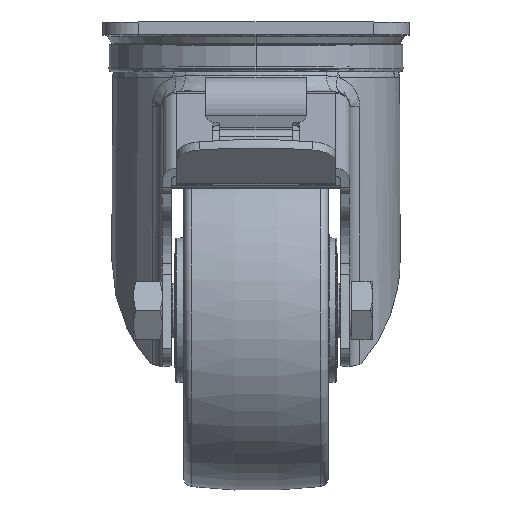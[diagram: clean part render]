
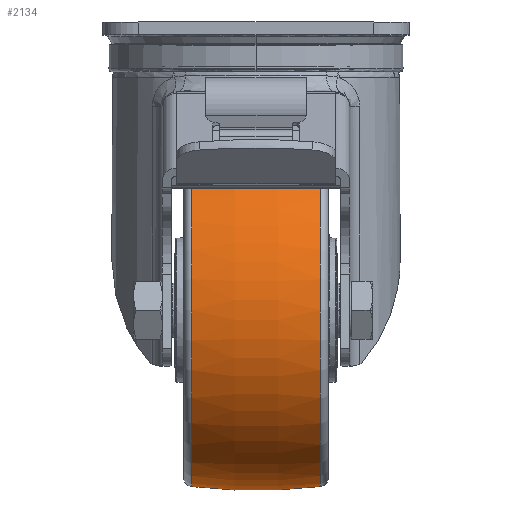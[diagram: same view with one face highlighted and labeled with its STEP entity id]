
A CAD part, top view. The second image highlights one B-rep face of the part: STEP entity #2134.
In plain terms, the highlighted toroidal (fillet/blend) face has major radius 100 mm and minor radius 150 mm.
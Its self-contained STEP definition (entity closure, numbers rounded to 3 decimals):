
#2134 = ADVANCED_FACE ( 'NONE', ( #39194 ), #39198, .T. ) ;
#4659 = CARTESIAN_POINT ( 'NONE',  ( -17.797, 0., 0. ) ) ;
#4660 = DIRECTION ( 'NONE',  ( -1., 0., 0. ) ) ;
#4661 = DIRECTION ( 'NONE',  ( 0., 0., 1. ) ) ;
#4677 = CARTESIAN_POINT ( 'NONE',  ( 17.853, 0., 0. ) ) ;
#4678 = DIRECTION ( 'NONE',  ( -1., 0., 0. ) ) ;
#4679 = DIRECTION ( 'NONE',  ( 0., 0., 1. ) ) ;
#4684 = CARTESIAN_POINT ( 'NONE',  ( 0., 0., 100. ) ) ;
#4685 = DIRECTION ( 'NONE',  ( 0., 1., 0. ) ) ;
#4686 = DIRECTION ( 'NONE',  ( 0., 0., 1. ) ) ;
#4687 = CARTESIAN_POINT ( 'NONE',  ( 0., 0., -100. ) ) ;
#4688 = DIRECTION ( 'NONE',  ( 0., -1., 0. ) ) ;
#4689 = DIRECTION ( 'NONE',  ( 0., 0., -1. ) ) ;
#6464 = CIRCLE ( 'NONE', #41798, 48.941 ) ;
#6474 = CIRCLE ( 'NONE', #41804, 48.934 ) ;
#6475 = CIRCLE ( 'NONE', #41806, 150. ) ;
#6477 = CIRCLE ( 'NONE', #41807, 150. ) ;
#24667 = EDGE_CURVE ( 'NONE', #63660, #63661, #6464, .T. ) ;
#24679 = EDGE_CURVE ( 'NONE', #63669, #63670, #6474, .T. ) ;
#24683 = EDGE_CURVE ( 'NONE', #63670, #63661, #6475, .T. ) ;
#24685 = EDGE_CURVE ( 'NONE', #63669, #63660, #6477, .T. ) ;
#37806 = CARTESIAN_POINT ( 'NONE',  ( 0., 0., 0. ) ) ;
#37815 = DIRECTION ( 'NONE',  ( -1., 0., 0. ) ) ;
#37816 = DIRECTION ( 'NONE',  ( 0., 0., 1. ) ) ;
#39194 = FACE_OUTER_BOUND ( 'NONE', #62209, .T. ) ;
#39198 = TOROIDAL_SURFACE ( 'NONE', #68192, -100., 150. ) ;
#41798 = AXIS2_PLACEMENT_3D ( 'NONE', #4659, #4660, #4661 ) ;
#41804 = AXIS2_PLACEMENT_3D ( 'NONE', #4677, #4678, #4679 ) ;
#41806 = AXIS2_PLACEMENT_3D ( 'NONE', #4684, #4685, #4686 ) ;
#41807 = AXIS2_PLACEMENT_3D ( 'NONE', #4687, #4688, #4689 ) ;
#47233 = ORIENTED_EDGE ( 'NONE', *, *, #24679, .T. ) ;
#47236 = ORIENTED_EDGE ( 'NONE', *, *, #24683, .T. ) ;
#47239 = ORIENTED_EDGE ( 'NONE', *, *, #24667, .F. ) ;
#47242 = ORIENTED_EDGE ( 'NONE', *, *, #24685, .F. ) ;
#54624 = CARTESIAN_POINT ( 'NONE',  ( -17.797, 0., 48.941 ) ) ;
#54626 = CARTESIAN_POINT ( 'NONE',  ( -17.797, 0., -48.941 ) ) ;
#54640 = CARTESIAN_POINT ( 'NONE',  ( 17.853, 0., 48.934 ) ) ;
#54642 = CARTESIAN_POINT ( 'NONE',  ( 17.853, 0., -48.934 ) ) ;
#62209 = EDGE_LOOP ( 'NONE', ( #47233, #47236, #47239, #47242 ) ) ;
#63660 = VERTEX_POINT ( 'NONE', #54624 ) ;
#63661 = VERTEX_POINT ( 'NONE', #54626 ) ;
#63669 = VERTEX_POINT ( 'NONE', #54640 ) ;
#63670 = VERTEX_POINT ( 'NONE', #54642 ) ;
#68192 = AXIS2_PLACEMENT_3D ( 'NONE', #37806, #37815, #37816 ) ;
